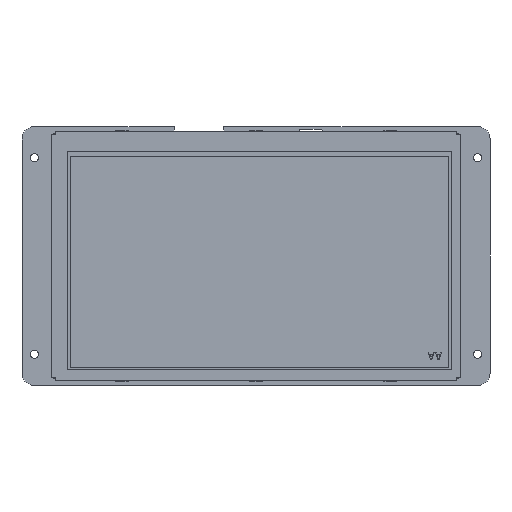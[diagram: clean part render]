
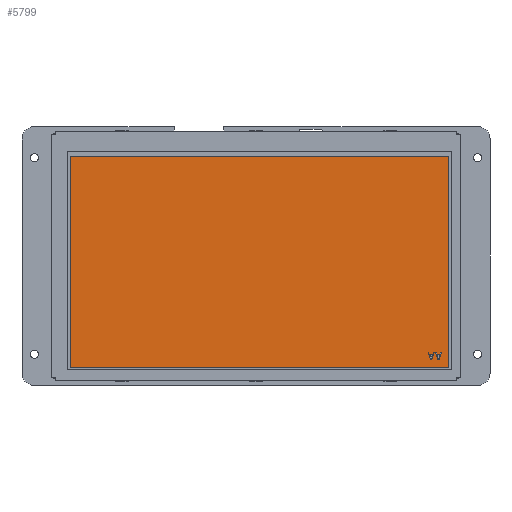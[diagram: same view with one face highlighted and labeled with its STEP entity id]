
A CAD part, front view. The second image highlights one B-rep face of the part: STEP entity #5799.
In plain terms, the highlighted planar face has unit normal (0, -1, 0) as drawn and (0, 1, 0) by its records, which use the part's own axes.
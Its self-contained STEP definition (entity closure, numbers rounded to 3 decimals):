
#5202=DIRECTION('',(0.,0.,-1.));
#5203=VECTOR('',#5202,85.92);
#5204=CARTESIAN_POINT('',(-78.53,5.6,40.7));
#5205=LINE('',#5204,#5203);
#5206=DIRECTION('',(1.,0.,0.));
#5207=VECTOR('',#5206,154.08);
#5208=CARTESIAN_POINT('',(-78.53,5.6,-45.22));
#5209=LINE('',#5208,#5207);
#5210=DIRECTION('',(0.,0.,1.));
#5211=VECTOR('',#5210,85.92);
#5212=CARTESIAN_POINT('',(75.55,5.6,-45.22));
#5213=LINE('',#5212,#5211);
#5214=DIRECTION('',(-1.,0.,0.));
#5215=VECTOR('',#5214,154.08);
#5216=CARTESIAN_POINT('',(75.55,5.6,40.7));
#5217=LINE('',#5216,#5215);
#5218=DIRECTION('',(-0.316,0.,-0.949));
#5219=VECTOR('',#5218,3.162);
#5220=CARTESIAN_POINT('',(-73.03,5.6,-39.22));
#5221=LINE('',#5220,#5219);
#5222=DIRECTION('',(-1.,0.,0.));
#5223=VECTOR('',#5222,0.5);
#5224=CARTESIAN_POINT('',(-74.03,5.6,-42.22));
#5225=LINE('',#5224,#5223);
#5226=DIRECTION('',(-0.316,0.,0.949));
#5227=VECTOR('',#5226,3.162);
#5228=CARTESIAN_POINT('',(-74.53,5.6,-42.22));
#5229=LINE('',#5228,#5227);
#5230=DIRECTION('',(1.,0.,0.));
#5231=VECTOR('',#5230,0.375);
#5232=CARTESIAN_POINT('',(-75.53,5.6,-39.22));
#5233=LINE('',#5232,#5231);
#5234=DIRECTION('',(0.31,0.,-0.951));
#5235=VECTOR('',#5234,0.806);
#5236=CARTESIAN_POINT('',(-75.155,5.6,-39.22));
#5237=LINE('',#5236,#5235);
#5238=DIRECTION('',(1.,0.,0.));
#5239=VECTOR('',#5238,1.25);
#5240=CARTESIAN_POINT('',(-74.905,5.6,-39.986));
#5241=LINE('',#5240,#5239);
#5242=DIRECTION('',(0.31,0.,0.951));
#5243=VECTOR('',#5242,0.806);
#5244=CARTESIAN_POINT('',(-73.655,5.6,-39.986));
#5245=LINE('',#5244,#5243);
#5246=DIRECTION('',(1.,0.,0.));
#5247=VECTOR('',#5246,0.375);
#5248=CARTESIAN_POINT('',(-73.405,5.6,-39.22));
#5249=LINE('',#5248,#5247);
#5250=DIRECTION('',(-0.316,0.,-0.949));
#5251=VECTOR('',#5250,3.162);
#5252=CARTESIAN_POINT('',(-70.03,5.6,-39.22));
#5253=LINE('',#5252,#5251);
#5254=DIRECTION('',(-1.,0.,0.));
#5255=VECTOR('',#5254,0.5);
#5256=CARTESIAN_POINT('',(-71.03,5.6,-42.22));
#5257=LINE('',#5256,#5255);
#5258=DIRECTION('',(-0.316,0.,0.949));
#5259=VECTOR('',#5258,3.162);
#5260=CARTESIAN_POINT('',(-71.53,5.6,-42.22));
#5261=LINE('',#5260,#5259);
#5262=DIRECTION('',(1.,0.,0.));
#5263=VECTOR('',#5262,0.375);
#5264=CARTESIAN_POINT('',(-72.53,5.6,-39.22));
#5265=LINE('',#5264,#5263);
#5266=DIRECTION('',(0.31,0.,-0.951));
#5267=VECTOR('',#5266,0.806);
#5268=CARTESIAN_POINT('',(-72.155,5.6,-39.22));
#5269=LINE('',#5268,#5267);
#5270=DIRECTION('',(1.,0.,0.));
#5271=VECTOR('',#5270,1.25);
#5272=CARTESIAN_POINT('',(-71.905,5.6,-39.986));
#5273=LINE('',#5272,#5271);
#5274=DIRECTION('',(0.31,0.,0.951));
#5275=VECTOR('',#5274,0.806);
#5276=CARTESIAN_POINT('',(-70.655,5.6,-39.986));
#5277=LINE('',#5276,#5275);
#5278=DIRECTION('',(1.,0.,0.));
#5279=VECTOR('',#5278,0.375);
#5280=CARTESIAN_POINT('',(-70.405,5.6,-39.22));
#5281=LINE('',#5280,#5279);
#5542=CARTESIAN_POINT('',(-78.53,5.6,-45.22));
#5543=VERTEX_POINT('',#5542);
#5544=CARTESIAN_POINT('',(-78.53,5.6,40.7));
#5545=VERTEX_POINT('',#5544);
#5546=CARTESIAN_POINT('',(75.55,5.6,-45.22));
#5547=VERTEX_POINT('',#5546);
#5548=CARTESIAN_POINT('',(75.55,5.6,40.7));
#5549=VERTEX_POINT('',#5548);
#5550=CARTESIAN_POINT('',(-73.03,5.6,-39.22));
#5551=CARTESIAN_POINT('',(-74.03,5.6,-42.22));
#5552=VERTEX_POINT('',#5550);
#5553=VERTEX_POINT('',#5551);
#5554=CARTESIAN_POINT('',(-74.53,5.6,-42.22));
#5555=VERTEX_POINT('',#5554);
#5556=CARTESIAN_POINT('',(-75.53,5.6,-39.22));
#5557=VERTEX_POINT('',#5556);
#5558=CARTESIAN_POINT('',(-75.155,5.6,-39.22));
#5559=VERTEX_POINT('',#5558);
#5560=CARTESIAN_POINT('',(-74.905,5.6,-39.986));
#5561=VERTEX_POINT('',#5560);
#5562=CARTESIAN_POINT('',(-73.655,5.6,-39.986));
#5563=VERTEX_POINT('',#5562);
#5564=CARTESIAN_POINT('',(-73.405,5.6,-39.22));
#5565=VERTEX_POINT('',#5564);
#5566=CARTESIAN_POINT('',(-70.03,5.6,-39.22));
#5567=CARTESIAN_POINT('',(-71.03,5.6,-42.22));
#5568=VERTEX_POINT('',#5566);
#5569=VERTEX_POINT('',#5567);
#5570=CARTESIAN_POINT('',(-71.53,5.6,-42.22));
#5571=VERTEX_POINT('',#5570);
#5572=CARTESIAN_POINT('',(-72.53,5.6,-39.22));
#5573=VERTEX_POINT('',#5572);
#5574=CARTESIAN_POINT('',(-72.155,5.6,-39.22));
#5575=VERTEX_POINT('',#5574);
#5576=CARTESIAN_POINT('',(-71.905,5.6,-39.986));
#5577=VERTEX_POINT('',#5576);
#5578=CARTESIAN_POINT('',(-70.655,5.6,-39.986));
#5579=VERTEX_POINT('',#5578);
#5580=CARTESIAN_POINT('',(-70.405,5.6,-39.22));
#5581=VERTEX_POINT('',#5580);
#5752=CARTESIAN_POINT('',(0.,5.6,0.));
#5753=DIRECTION('',(0.,1.,0.));
#5754=DIRECTION('',(1.,0.,0.));
#5755=AXIS2_PLACEMENT_3D('',#5752,#5753,#5754);
#5756=PLANE('',#5755);
#5757=ORIENTED_EDGE('',*,*,#5704,.T.);
#5758=ORIENTED_EDGE('',*,*,#5719,.T.);
#5759=ORIENTED_EDGE('',*,*,#5733,.T.);
#5760=ORIENTED_EDGE('',*,*,#5746,.T.);
#5761=EDGE_LOOP('',(#5757,#5758,#5759,#5760));
#5762=FACE_OUTER_BOUND('',#5761,.F.);
#5764=ORIENTED_EDGE('',*,*,#5763,.T.);
#5766=ORIENTED_EDGE('',*,*,#5765,.T.);
#5768=ORIENTED_EDGE('',*,*,#5767,.T.);
#5770=ORIENTED_EDGE('',*,*,#5769,.T.);
#5772=ORIENTED_EDGE('',*,*,#5771,.T.);
#5774=ORIENTED_EDGE('',*,*,#5773,.T.);
#5776=ORIENTED_EDGE('',*,*,#5775,.T.);
#5778=ORIENTED_EDGE('',*,*,#5777,.T.);
#5779=EDGE_LOOP('',(#5764,#5766,#5768,#5770,#5772,#5774,#5776,#5778));
#5780=FACE_BOUND('',#5779,.F.);
#5782=ORIENTED_EDGE('',*,*,#5781,.T.);
#5784=ORIENTED_EDGE('',*,*,#5783,.T.);
#5786=ORIENTED_EDGE('',*,*,#5785,.T.);
#5788=ORIENTED_EDGE('',*,*,#5787,.T.);
#5790=ORIENTED_EDGE('',*,*,#5789,.T.);
#5792=ORIENTED_EDGE('',*,*,#5791,.T.);
#5794=ORIENTED_EDGE('',*,*,#5793,.T.);
#5796=ORIENTED_EDGE('',*,*,#5795,.T.);
#5797=EDGE_LOOP('',(#5782,#5784,#5786,#5788,#5790,#5792,#5794,#5796));
#5798=FACE_BOUND('',#5797,.F.);
#5704=EDGE_CURVE('',#5545,#5543,#5205,.T.);
#5719=EDGE_CURVE('',#5543,#5547,#5209,.T.);
#5733=EDGE_CURVE('',#5547,#5549,#5213,.T.);
#5746=EDGE_CURVE('',#5549,#5545,#5217,.T.);
#5763=EDGE_CURVE('',#5552,#5553,#5221,.T.);
#5765=EDGE_CURVE('',#5553,#5555,#5225,.T.);
#5767=EDGE_CURVE('',#5555,#5557,#5229,.T.);
#5769=EDGE_CURVE('',#5557,#5559,#5233,.T.);
#5771=EDGE_CURVE('',#5559,#5561,#5237,.T.);
#5773=EDGE_CURVE('',#5561,#5563,#5241,.T.);
#5775=EDGE_CURVE('',#5563,#5565,#5245,.T.);
#5777=EDGE_CURVE('',#5565,#5552,#5249,.T.);
#5781=EDGE_CURVE('',#5568,#5569,#5253,.T.);
#5783=EDGE_CURVE('',#5569,#5571,#5257,.T.);
#5785=EDGE_CURVE('',#5571,#5573,#5261,.T.);
#5787=EDGE_CURVE('',#5573,#5575,#5265,.T.);
#5789=EDGE_CURVE('',#5575,#5577,#5269,.T.);
#5791=EDGE_CURVE('',#5577,#5579,#5273,.T.);
#5793=EDGE_CURVE('',#5579,#5581,#5277,.T.);
#5795=EDGE_CURVE('',#5581,#5568,#5281,.T.);
#5799=ADVANCED_FACE('',(#5762,#5780,#5798),#5756,.T.);
